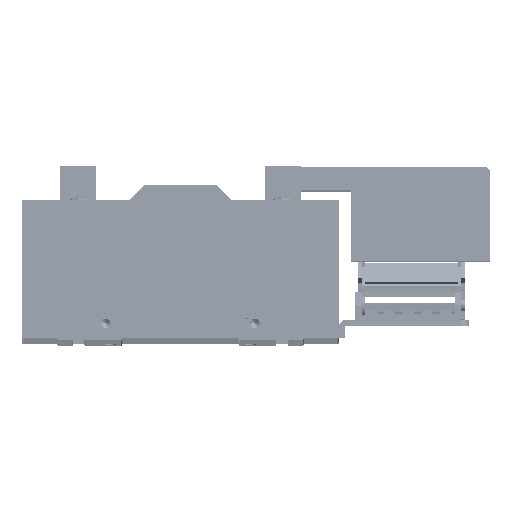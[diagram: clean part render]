
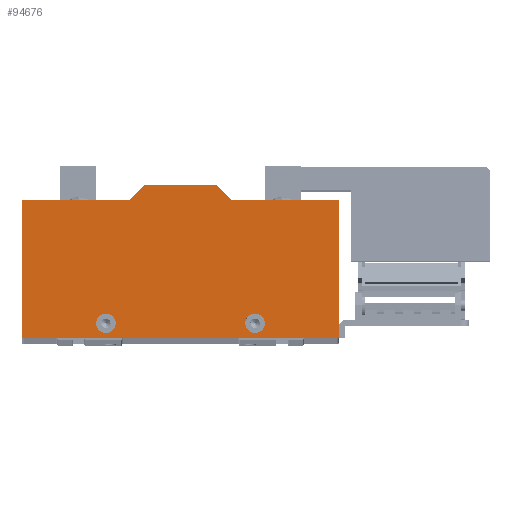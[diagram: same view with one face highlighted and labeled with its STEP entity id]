
A CAD part, top view. The second image highlights one B-rep face of the part: STEP entity #94676.
In plain terms, the highlighted planar face has unit normal (0, 0, 1).
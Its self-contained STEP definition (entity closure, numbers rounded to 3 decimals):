
#32888 = CARTESIAN_POINT ( 'NONE',  ( 34.75, -29., 9.525 ) ) ;
#33704 = LINE ( 'NONE', #33863, #33862 ) ;
#33724 = DIRECTION ( 'NONE',  ( 1., 0., 0. ) ) ;
#33727 = DIRECTION ( 'NONE',  ( 0., 0., 1. ) ) ;
#33728 = CARTESIAN_POINT ( 'NONE',  ( -40., -29., 9.525 ) ) ;
#33731 = AXIS2_PLACEMENT_3D ( 'NONE', #33728, #33727, #33724 ) ;
#33732 = CIRCLE ( 'NONE', #33731, 5.25 ) ;
#33861 = DIRECTION ( 'NONE',  ( -1., 0., 0. ) ) ;
#33862 = VECTOR ( 'NONE', #33861, 1000. ) ;
#33863 = CARTESIAN_POINT ( 'NONE',  ( -19.5, 45., 9.525 ) ) ;
#33917 = CARTESIAN_POINT ( 'NONE',  ( -85., 37., 9.525 ) ) ;
#33918 = DIRECTION ( 'NONE',  ( 0., -1., 0. ) ) ;
#33919 = VECTOR ( 'NONE', #33918, 1000. ) ;
#33920 = CARTESIAN_POINT ( 'NONE',  ( -85., 37., 9.525 ) ) ;
#33922 = LINE ( 'NONE', #33920, #33919 ) ;
#33930 = CARTESIAN_POINT ( 'NONE',  ( -85., -37., 9.525 ) ) ;
#33938 = DIRECTION ( 'NONE',  ( -0.707, 0.707, 0. ) ) ;
#33939 = VECTOR ( 'NONE', #33938, 1000. ) ;
#33941 = CARTESIAN_POINT ( 'NONE',  ( 19.5, 45., 9.525 ) ) ;
#33944 = LINE ( 'NONE', #33941, #33939 ) ;
#33966 = CARTESIAN_POINT ( 'NONE',  ( 27.5, 37., 9.525 ) ) ;
#33999 = CARTESIAN_POINT ( 'NONE',  ( -34.75, -29., 9.525 ) ) ;
#34000 = CARTESIAN_POINT ( 'NONE',  ( -45.25, -29., 9.525 ) ) ;
#34111 = DIRECTION ( 'NONE',  ( -0.707, -0.707, 0. ) ) ;
#34113 = VECTOR ( 'NONE', #34111, 1000. ) ;
#34114 = CARTESIAN_POINT ( 'NONE',  ( -27.5, 37., 9.525 ) ) ;
#34115 = LINE ( 'NONE', #34114, #34113 ) ;
#34118 = DIRECTION ( 'NONE',  ( -1., 0., 0. ) ) ;
#34120 = VECTOR ( 'NONE', #34118, 1000. ) ;
#34122 = CARTESIAN_POINT ( 'NONE',  ( -85., 37., 9.525 ) ) ;
#34124 = LINE ( 'NONE', #34122, #34120 ) ;
#34194 = DIRECTION ( 'NONE',  ( 1., 0., 0. ) ) ;
#34195 = VECTOR ( 'NONE', #34194, 1000. ) ;
#34197 = CARTESIAN_POINT ( 'NONE',  ( -85., -37., 9.525 ) ) ;
#34198 = LINE ( 'NONE', #34197, #34195 ) ;
#34201 = CARTESIAN_POINT ( 'NONE',  ( 85., -37., 9.525 ) ) ;
#34210 = DIRECTION ( 'NONE',  ( 1., 0., 0. ) ) ;
#34212 = DIRECTION ( 'NONE',  ( 0., 0., 1. ) ) ;
#34214 = CARTESIAN_POINT ( 'NONE',  ( -85., 37., 9.525 ) ) ;
#34216 = AXIS2_PLACEMENT_3D ( 'NONE', #34214, #34212, #34210 ) ;
#34218 = PLANE ( 'NONE',  #34216 ) ;
#34220 = FACE_OUTER_BOUND ( 'NONE', #94776, .T. ) ;
#34221 = FACE_BOUND ( 'NONE', #94769, .T. ) ;
#34223 = FACE_BOUND ( 'NONE', #94762, .T. ) ;
#34245 = DIRECTION ( 'NONE',  ( -1., 0., 0. ) ) ;
#34247 = VECTOR ( 'NONE', #34245, 1000. ) ;
#34249 = CARTESIAN_POINT ( 'NONE',  ( 27.5, 37., 9.525 ) ) ;
#34251 = LINE ( 'NONE', #34249, #34247 ) ;
#34317 = CARTESIAN_POINT ( 'NONE',  ( 19.5, 45., 9.525 ) ) ;
#34392 = DIRECTION ( 'NONE',  ( 1., 0., 0. ) ) ;
#34393 = DIRECTION ( 'NONE',  ( 0., 0., 1. ) ) ;
#34394 = CARTESIAN_POINT ( 'NONE',  ( 40., -29., 9.525 ) ) ;
#34395 = AXIS2_PLACEMENT_3D ( 'NONE', #34394, #34393, #34392 ) ;
#34397 = CIRCLE ( 'NONE', #34395, 5.25 ) ;
#34404 = DIRECTION ( 'NONE',  ( 1., 0., 0. ) ) ;
#34405 = DIRECTION ( 'NONE',  ( 0., 0., 1. ) ) ;
#34406 = CARTESIAN_POINT ( 'NONE',  ( -40., -29., 9.525 ) ) ;
#34407 = AXIS2_PLACEMENT_3D ( 'NONE', #34406, #34405, #34404 ) ;
#34416 = CIRCLE ( 'NONE', #34407, 5.25 ) ;
#34474 = CARTESIAN_POINT ( 'NONE',  ( -27.5, 37., 9.525 ) ) ;
#34494 = CARTESIAN_POINT ( 'NONE',  ( 45.25, -29., 9.525 ) ) ;
#34497 = CARTESIAN_POINT ( 'NONE',  ( -19.5, 45., 9.525 ) ) ;
#34608 = DIRECTION ( 'NONE',  ( 1., 0., 0. ) ) ;
#34609 = DIRECTION ( 'NONE',  ( 0., 0., 1. ) ) ;
#34611 = CARTESIAN_POINT ( 'NONE',  ( 40., -29., 9.525 ) ) ;
#34613 = AXIS2_PLACEMENT_3D ( 'NONE', #34611, #34609, #34608 ) ;
#34615 = CIRCLE ( 'NONE', #34613, 5.25 ) ;
#34625 = DIRECTION ( 'NONE',  ( 0., 1., 0. ) ) ;
#34626 = VECTOR ( 'NONE', #34625, 1000. ) ;
#34627 = CARTESIAN_POINT ( 'NONE',  ( 85., 37., 9.525 ) ) ;
#34628 = LINE ( 'NONE', #34627, #34626 ) ;
#34634 = CARTESIAN_POINT ( 'NONE',  ( 85., 37., 9.525 ) ) ;
#94022 = VERTEX_POINT ( 'NONE', #32888 ) ;
#94480 = EDGE_CURVE ( 'NONE', #94567, #94569, #33732, .T. ) ;
#94486 = EDGE_CURVE ( 'NONE', #94737, #94887, #33704, .T. ) ;
#94522 = VERTEX_POINT ( 'NONE', #33930 ) ;
#94526 = EDGE_CURVE ( 'NONE', #94527, #94522, #33922, .T. ) ;
#94527 = VERTEX_POINT ( 'NONE', #33917 ) ;
#94567 = VERTEX_POINT ( 'NONE', #34000 ) ;
#94569 = VERTEX_POINT ( 'NONE', #33999 ) ;
#94593 = VERTEX_POINT ( 'NONE', #33966 ) ;
#94601 = EDGE_CURVE ( 'NONE', #94593, #94737, #33944, .T. ) ;
#94658 = EDGE_CURVE ( 'NONE', #94818, #94527, #34124, .T. ) ;
#94663 = EDGE_CURVE ( 'NONE', #94887, #94818, #34115, .T. ) ;
#94676 = ADVANCED_FACE ( 'NONE', ( #34223, #34221, #34220 ), #34218, .T. ) ;
#94678 = VERTEX_POINT ( 'NONE', #34201 ) ;
#94682 = EDGE_CURVE ( 'NONE', #94522, #94678, #34198, .T. ) ;
#94709 = EDGE_CURVE ( 'NONE', #94960, #94593, #34251, .T. ) ;
#94737 = VERTEX_POINT ( 'NONE', #34317 ) ;
#94762 = EDGE_LOOP ( 'NONE', ( #94763, #94766 ) ) ;
#94763 = ORIENTED_EDGE ( 'NONE', *, *, #94764, .F. ) ;
#94764 = EDGE_CURVE ( 'NONE', #94569, #94567, #34416, .T. ) ;
#94766 = ORIENTED_EDGE ( 'NONE', *, *, #94480, .F. ) ;
#94769 = EDGE_LOOP ( 'NONE', ( #94770, #94773 ) ) ;
#94770 = ORIENTED_EDGE ( 'NONE', *, *, #94772, .F. ) ;
#94772 = EDGE_CURVE ( 'NONE', #94892, #94022, #34397, .T. ) ;
#94773 = ORIENTED_EDGE ( 'NONE', *, *, #94894, .F. ) ;
#94776 = EDGE_LOOP ( 'NONE', ( #94778, #94779, #94780, #94781, #94783, #94785, #94788, #94791 ) ) ;
#94778 = ORIENTED_EDGE ( 'NONE', *, *, #94526, .T. ) ;
#94779 = ORIENTED_EDGE ( 'NONE', *, *, #94682, .T. ) ;
#94780 = ORIENTED_EDGE ( 'NONE', *, *, #94963, .T. ) ;
#94781 = ORIENTED_EDGE ( 'NONE', *, *, #94709, .T. ) ;
#94783 = ORIENTED_EDGE ( 'NONE', *, *, #94601, .T. ) ;
#94785 = ORIENTED_EDGE ( 'NONE', *, *, #94486, .T. ) ;
#94788 = ORIENTED_EDGE ( 'NONE', *, *, #94663, .T. ) ;
#94791 = ORIENTED_EDGE ( 'NONE', *, *, #94658, .T. ) ;
#94818 = VERTEX_POINT ( 'NONE', #34474 ) ;
#94887 = VERTEX_POINT ( 'NONE', #34497 ) ;
#94892 = VERTEX_POINT ( 'NONE', #34494 ) ;
#94894 = EDGE_CURVE ( 'NONE', #94022, #94892, #34615, .T. ) ;
#94960 = VERTEX_POINT ( 'NONE', #34634 ) ;
#94963 = EDGE_CURVE ( 'NONE', #94678, #94960, #34628, .T. ) ;
